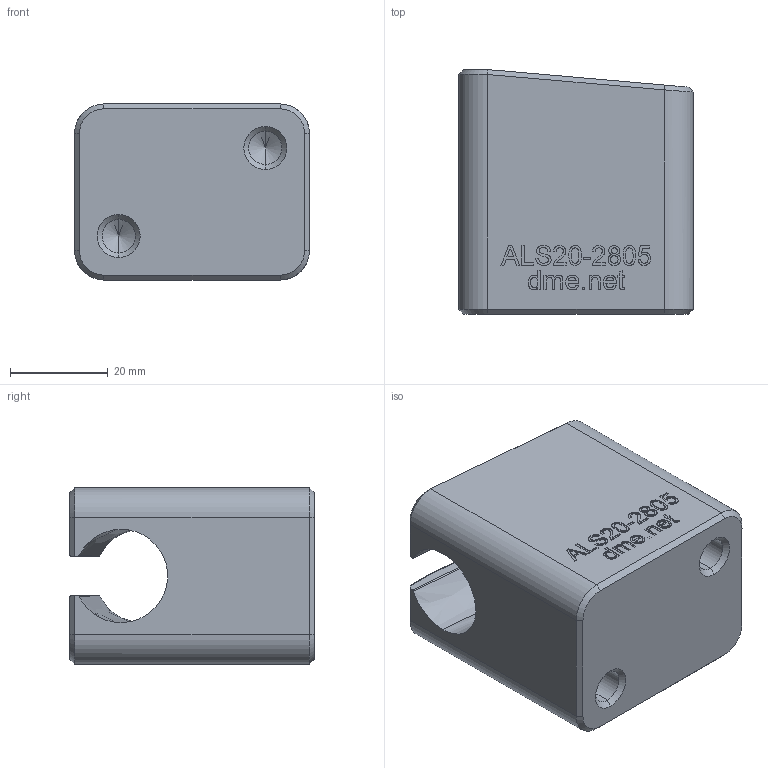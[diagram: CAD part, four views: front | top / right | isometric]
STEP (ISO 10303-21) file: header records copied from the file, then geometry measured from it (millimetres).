
FILE_DESCRIPTION (( 'STEP AP203' ), '1' );
FILE_NAME ('ALS20-2805_Shoe.STEP', '2020-12-21T20:24:27', ( '' ), ( '' ), 'SwSTEP 2.0', 'SolidWorks 2020', '' );
FILE_SCHEMA (( 'CONFIG_CONTROL_DESIGN' ));
Length unit declared in the file: millimetre
Products named in the file (1): ALS20-2805_Shoe
Bounding box: 48 x 50 x 36 mm (x, y, z)
Volume: 66372.4 mm3; surface area: 13276.1 mm2
Topology: 1 solids, 1 shells, 287 faces, 754 edges, 492 vertices
Faces by surface type: plane 130, bspline 129, cone 14, cylinder 14
Entity records: 15943 total; most frequent: CARTESIAN_POINT 9727, ORIENTED_EDGE 1500, DIRECTION 818, EDGE_CURVE 750, VERTEX_POINT 492, LINE 452, VECTOR 452, EDGE_LOOP 314
